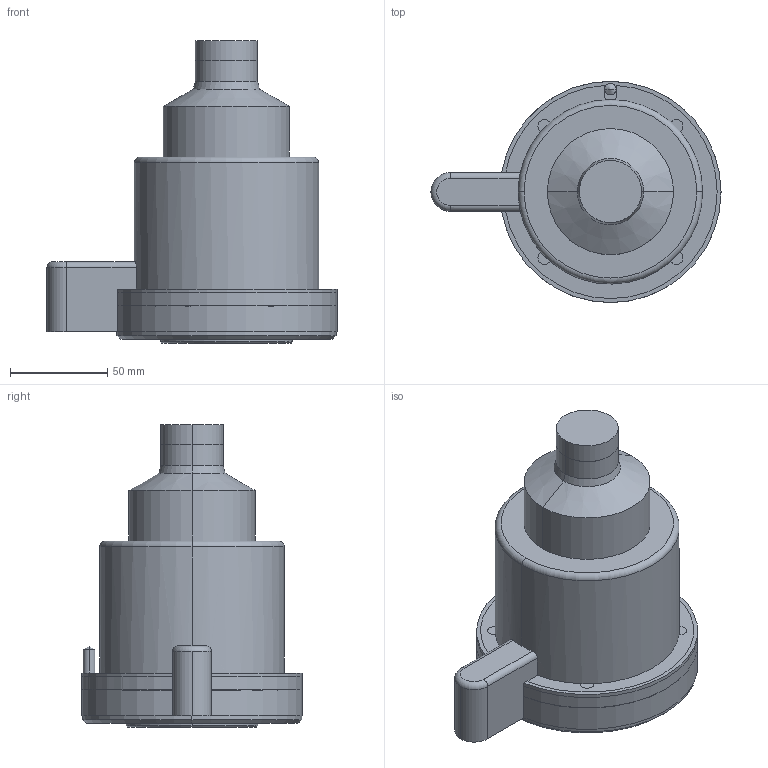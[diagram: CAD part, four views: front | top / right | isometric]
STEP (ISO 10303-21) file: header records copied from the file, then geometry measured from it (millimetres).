
FILE_DESCRIPTION (( 'STEP AP214' ), '1' );
FILE_NAME ('SR24_CLOSED_150_BAND.STEP', '2009-05-07T18:27:10', ( 'Synventive Molding Solutions' ), ( 'Synventive Molding Solutions' ), 'SwSTEP 2.0', 'SolidWorks 2008', '' );
FILE_SCHEMA (( 'AUTOMOTIVE_DESIGN' ));
Length unit declared in the file: millimetre
Products named in the file (1): SR24_CLOSED_150_BAND
Bounding box: 149.5 x 114 x 156 mm (x, y, z)
Volume: 1417757.8 mm3; surface area: 148865.3 mm2
Topology: 4 solids, 4 shells, 284 faces, 701 edges, 435 vertices
Faces by surface type: cylinder 116, plane 90, torus 40, cone 34, sphere 2, bspline 2
Entity records: 12319 total; most frequent: CARTESIAN_POINT 2319, DIRECTION 1503, ORIENTED_EDGE 1390, EDGE_CURVE 695, AXIS2_PLACEMENT_3D 609, VERTEX_POINT 435, CIRCLE 326, EDGE_LOOP 316
